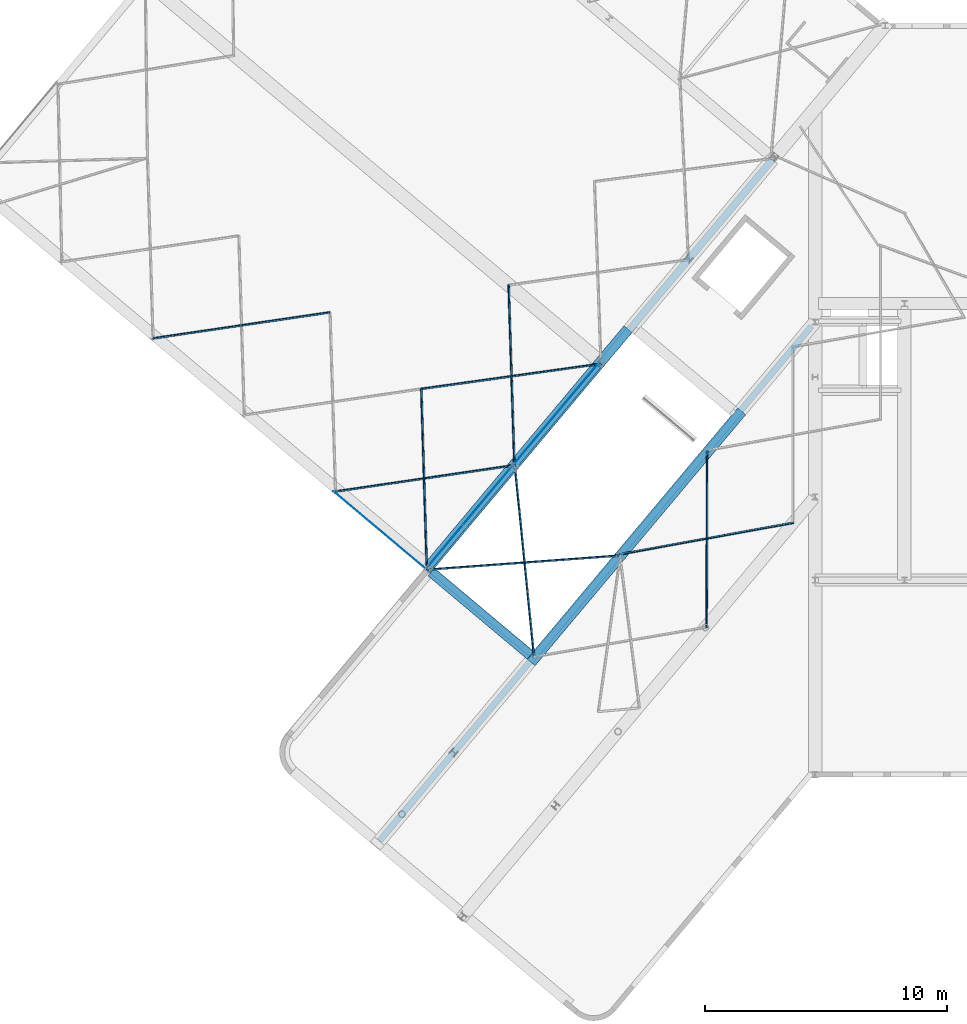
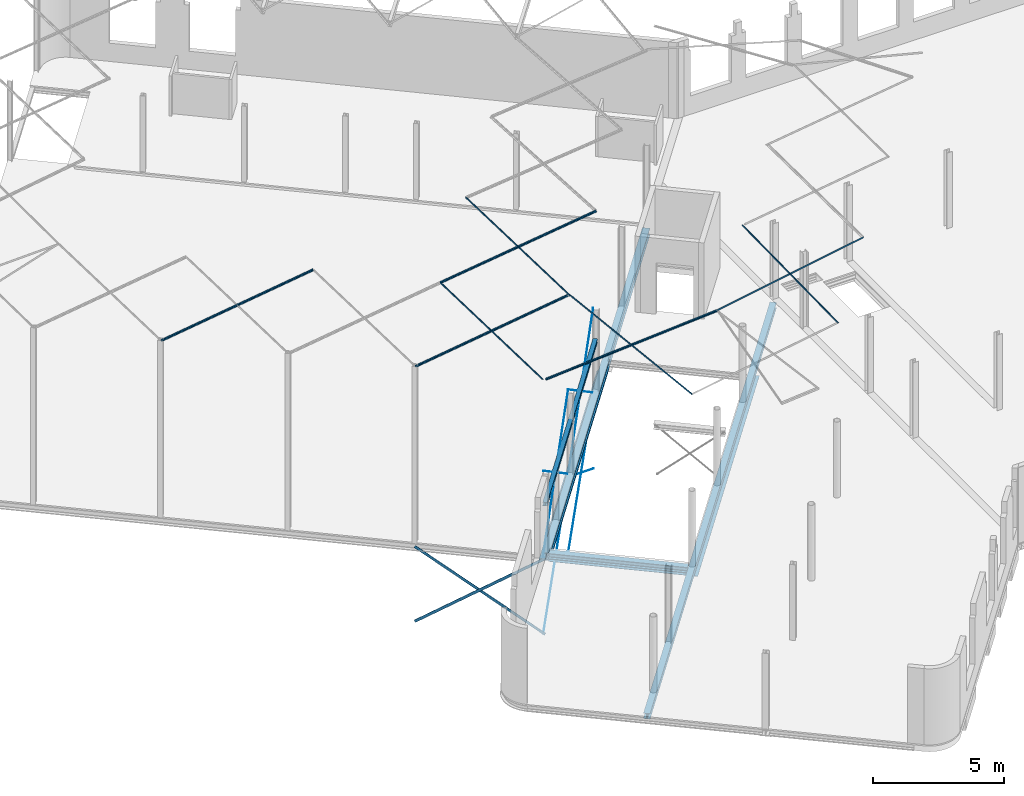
# One storey, part 13 of 25: 26 beams.
"""IFC2X3 building model written with IfcOpenShell, lengths in millimetres."""

from ifc_helpers import new_model, entity, si_unit, converted_unit, derived_unit, direction, frame, frame_2d, origin, origin_2d_with_axis, place, context, subcontext, project, spatial, polyline, circle_curve, parameter, trimmed, segment, composite_curve, rectangle, circle, i_section, outline, extrude, material, type_object, element, save


model = new_model("IFC2X3")

# Units and contexts
model_context = context("Model", 3, precision=0.01, world=origin(), true_north=direction((6.123031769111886e-17, 1.0)))
body_context = subcontext(model_context, "Body", "Model", "MODEL_VIEW")
ifc_project = project(units=[si_unit("LENGTHUNIT", "METRE", prefix="MILLI"), si_unit("AREAUNIT", "SQUARE_METRE"), si_unit("VOLUMEUNIT", "CUBIC_METRE"), derived_unit("MASSDENSITYUNIT", [(si_unit("MASSUNIT", "GRAM", prefix="KILO"), 1), (si_unit("LENGTHUNIT", "METRE"), -3)]), si_unit("MASSUNIT", "GRAM", prefix="KILO"), converted_unit("PLANEANGLEUNIT", "DEGREE", entity("IfcPlaneAngleMeasure", 0.017453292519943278), si_unit("PLANEANGLEUNIT", "RADIAN"), dimensions=[0, 0, 0, 0, 0, 0, 0])], contexts=[model_context])

# Site, building, storey
site_placement = place(None, origin())
site = spatial("IfcSite", under=ifc_project, at=site_placement, Name="Default", CompositionType="ELEMENT")
building_placement = place(site_placement, origin())
building = spatial("IfcBuilding", under=site, at=building_placement, Name="AT constructie", CompositionType="ELEMENT")
storey_placement = place(building_placement, frame((0.0, 0.0, 3864.0)))
storey = spatial("IfcBuildingStorey", under=building, at=storey_placement, Name="01 eerste verdieping", CompositionType="ELEMENT", Elevation=3864.0)

# Beams
ifc_material = material(Name="h2_staal_S355")
beam_type_1 = type_object("IfcBeamType", Name="balk HE_gen_HEB260", PredefinedType="NOTDEFINED")
beam_1_placement = place(storey_placement, frame((23031.961199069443, 8922.422091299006, 0.0), z_axis=(0.0, 0.0, 1.0), x_axis=(0.642787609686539, 0.7660444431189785, 0.0)))
element("IfcBeam", 1, at=beam_1_placement, inside=storey, type_object=beam_type_1, material=ifc_material, Name="NLRS_28_SF_LIB_balk HEB_gen_AT:balk HE_gen_HEB260", ObjectType="NLRS_28_SF_LIB_balk HEB_gen_AT:balk HE_gen_HEB260", context=body_context, shape_type="SweptSolid", body=[
    extrude(i_section(OverallWidth=260.00000000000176, OverallDepth=259.9999999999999, WebThickness=10.000000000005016, FlangeThickness=17.49999999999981, FilletRadius=24.000000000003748, at=frame_2d((2.7000623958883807e-13, -7.759126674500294e-12), x_axis=(0.0, 1.0))), frame((142.70000000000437, 0.0, -240.0), z_axis=(1.0, 0.0, 0.0), x_axis=(0.0, 0.0, -1.0)), (0.0, 0.0, 1.0), 27805.743873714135),
])
beam_2_placement = place(storey_placement, frame((25272.569397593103, 20226.942200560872, 0.0), z_axis=(0.0, 0.0, 1.0), x_axis=(0.7660444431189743, -0.6427876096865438, 0.0)))
element("IfcBeam", 2, at=beam_2_placement, inside=storey, type_object=beam_type_1, material=ifc_material, Name="NLRS_28_SF_LIB_balk HEB_gen_AT:balk HE_gen_HEB260", ObjectType="NLRS_28_SF_LIB_balk HEB_gen_AT:balk HE_gen_HEB260", context=body_context, shape_type="SweptSolid", body=[
    extrude(i_section(OverallWidth=259.99999999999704, OverallDepth=259.9999999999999, WebThickness=9.99999999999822, FlangeThickness=17.49999999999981, FilletRadius=24.000000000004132, at=frame_2d((2.7000623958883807e-13, -1.3926637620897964e-12), x_axis=(0.0, 1.0))), frame((0.0, 0.0, -240.0), z_axis=(1.0, 0.0, 0.0), x_axis=(0.0, 0.0, -1.0)), (0.0, 0.0, 1.0), 5399.999999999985),
])
beam_type_2 = type_object("IfcBeamType", Name="balk strip liggend_gen_420x15", PredefinedType="NOTDEFINED")
beam_3_placement = place(storey_placement, frame((25260.813696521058, 20158.481967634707, 0.0), z_axis=(0.0, 0.0, 1.0), x_axis=(0.7660444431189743, -0.6427876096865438, 0.0)))
element("IfcBeam", 3, at=beam_3_placement, inside=storey, type_object=beam_type_2, material=ifc_material, Name="NLRS_28_SF_LIB_balk strip_gen_AT:balk strip liggend_gen_420x15", ObjectType="NLRS_28_SF_LIB_balk strip_gen_AT:balk strip liggend_gen_420x15", context=body_context, shape_type="SweptSolid", body=[
    extrude(rectangle(XDim=14.999999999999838, YDim=420.00000000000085, at=origin_2d_with_axis()), frame((0.0, 0.0, -377.50000000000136), z_axis=(1.0, 0.0, 0.0), x_axis=(0.0, 0.0, -1.0)), (0.0, 0.0, 1.0), 5364.99999999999),
])
beam_type_3 = type_object("IfcBeamType", Name="balk HE_gen_HEB320", PredefinedType="NOTDEFINED")
beam_4_placement = place(storey_placement, frame((25247.520479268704, 20391.555540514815, 0.0), z_axis=(0.0, 0.0, 1.0), x_axis=(0.642787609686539, 0.7660444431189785, 0.0)))
element("IfcBeam", 4, at=beam_4_placement, inside=storey, type_object=beam_type_3, material=ifc_material, Name="NLRS_28_SF_LIB_balk HEB_gen_AT:balk HE_gen_HEB320", ObjectType="NLRS_28_SF_LIB_balk HEB_gen_AT:balk HE_gen_HEB320", context=body_context, shape_type="SweptSolid", body=[
    extrude(i_section(OverallWidth=300.0000000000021, OverallDepth=319.9999999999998, WebThickness=11.500000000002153, FlangeThickness=20.500000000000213, FilletRadius=26.999999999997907, at=frame_2d((-1.0942358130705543e-12, -3.069544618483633e-12), x_axis=(0.0, 1.0))), frame((6.096000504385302e-07, 0.0, -431.0), z_axis=(1.0, 0.0, 0.0), x_axis=(0.0, 0.0, -1.0)), (0.0, 0.0, 1.0), 21984.999999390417),
])
beam_type_4 = type_object("IfcBeamType", Name="balk strip liggend_gen_440x20", PredefinedType="NOTDEFINED")
beam_5_placement = place(storey_placement, frame((25201.55781268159, 20430.12279709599, 0.0), z_axis=(0.0, 0.0, 1.0), x_axis=(0.642787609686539, 0.7660444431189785, 0.0)))
element("IfcBeam", 5, at=beam_5_placement, inside=storey, type_object=beam_type_4, material=ifc_material, Name="NLRS_28_SF_LIB_balk strip_gen_AT:balk strip liggend_gen_440x20", ObjectType="NLRS_28_SF_LIB_balk strip_gen_AT:balk strip liggend_gen_440x20", context=body_context, shape_type="SweptSolid", body=[
    extrude(rectangle(XDim=19.999999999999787, YDim=439.99999999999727, at=frame_2d((0.0, -1.6768808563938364e-12), x_axis=(1.0, 0.0))), frame((0.0, 0.0, -601.0), z_axis=(1.0, 0.0, 0.0), x_axis=(0.0, 0.0, -1.0)), (0.0, 0.0, 1.0), 12765.000000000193),
])
beam_type_5 = type_object("IfcBeamType", Name="balk strip liggend_gen_440x15", PredefinedType="NOTDEFINED")
beam_6_placement = place(storey_placement, frame((29388.86562444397, 16420.49958667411, 0.0), z_axis=(0.0, 0.0, 1.0), x_axis=(0.642787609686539, 0.7660444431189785, 0.0)))
element("IfcBeam", 6, at=beam_6_placement, inside=storey, type_object=beam_type_5, material=ifc_material, Name="NLRS_28_SF_LIB_balk strip_gen_AT:balk strip liggend_gen_440x15", ObjectType="NLRS_28_SF_LIB_balk strip_gen_AT:balk strip liggend_gen_440x15", context=body_context, shape_type="SweptSolid", body=[
    extrude(rectangle(XDim=14.99999999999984, YDim=439.9999999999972, at=origin_2d_with_axis()), frame((0.0, 0.0, -377.5000000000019), z_axis=(1.0, 0.0, 0.0), x_axis=(0.0, 0.0, -1.0)), (0.0, 0.0, 1.0), 13565.000000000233),
])
beam_type_6 = type_object("IfcBeamType", Name="balk HE_gen_HEA180", PredefinedType="NOTDEFINED")
beam_7_placement = place(storey_placement, frame((25080.3957007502, 20192.383985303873, 2103.9668229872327), z_axis=(0.0, 0.0, 1.0), x_axis=(0.6427876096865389, 0.7660444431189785, 0.0)))
element("IfcBeam", 7, at=beam_7_placement, inside=storey, type_object=beam_type_6, material=ifc_material, Name="NLRS_28_SF_LIB_balk HEA_gen_AT:balk HE_gen_HEA180", ObjectType="NLRS_28_SF_LIB_balk HEA_gen_AT:balk HE_gen_HEA180", context=body_context, shape_type="SweptSolid", body=[
    extrude(i_section(OverallWidth=179.99999999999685, OverallDepth=171.0000000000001, WebThickness=5.9999999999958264, FlangeThickness=9.500000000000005, FilletRadius=15.000000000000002, at=frame_2d((1.0800249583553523e-12, 0.0), x_axis=(0.0, 1.0))), frame((0.0, 0.0, 85.50000000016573), z_axis=(1.0, 0.0, 0.0), x_axis=(0.0, 0.0, -1.0)), (0.0, 0.0, 1.0), 11069.035206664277),
])
beam_type_7 = type_object("IfcBeamType", Name="balk strip liggend_gen_120x10", PredefinedType="NOTDEFINED")
beam_8_placement = place(storey_placement, frame((21241.787390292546, 23481.892685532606, -430.99999998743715), z_axis=(0.4340114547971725, -0.36417885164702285, 0.8240193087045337), x_axis=(0.6312354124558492, -0.5296694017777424, -0.5665617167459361)))
element("IfcBeam", 8, at=beam_8_placement, inside=storey, type_object=beam_type_7, material=ifc_material, Name="NLRS_28_SF_LIB_balk strip_gen_AT:balk strip liggend_gen_120x10", ObjectType="NLRS_28_SF_LIB_balk strip_gen_AT:balk strip liggend_gen_120x10", context=body_context, shape_type="SweptSolid", body=[
    extrude(rectangle(XDim=119.99999999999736, YDim=10.000000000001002, at=frame_2d((2.1280754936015e-12, 1.6604495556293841e-12), x_axis=(1.0, 0.0))), frame((0.0, -5.0, 0.0), z_axis=(1.0, 0.0, 0.0), x_axis=(0.0, 0.0, -1.0)), (0.0, 0.0, 1.0), 6134.564987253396),
])
beam_9_placement = place(storey_placement, frame((25114.14205025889, 20232.60131856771, -375.7362524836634), z_axis=(-0.43927795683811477, 0.3685979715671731, 0.8192499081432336), x_axis=(-0.627581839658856, 0.5266036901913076, -0.5734366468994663)))
element("IfcBeam", 9, at=beam_9_placement, inside=storey, type_object=beam_type_7, material=ifc_material, Name="NLRS_28_SF_LIB_balk strip_gen_AT:balk strip liggend_gen_120x10", ObjectType="NLRS_28_SF_LIB_balk strip_gen_AT:balk strip liggend_gen_120x10", context=body_context, shape_type="SweptSolid", body=[
    extrude(rectangle(XDim=119.99999999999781, YDim=9.99999999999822, at=frame_2d((3.4567904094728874e-12, -2.7844393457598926e-12), x_axis=(1.0, 0.0))), frame((0.0, 5.0, 0.0), z_axis=(1.0, 0.0, 0.0), x_axis=(0.0, 0.0, -1.0)), (0.0, 0.0, 1.0), 6170.278384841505),
])
beam_type_8 = type_object("IfcBeamType", Name="staaf_gen_ø16", PredefinedType="NOTDEFINED")
beam_10_placement = place(storey_placement, frame((28689.757593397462, 24613.521913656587, -379.1250120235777), z_axis=(-0.3441246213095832, -0.4101117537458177, 0.8446221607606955), x_axis=(-0.5429126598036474, -0.6470181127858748, -0.5353628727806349)))
element("IfcBeam", 10, at=beam_10_placement, inside=storey, type_object=beam_type_8, material=ifc_material, Name="NLRS_28_SF_LIB_balk staaf_gen_AT:staaf_gen_ø16", ObjectType="NLRS_28_SF_LIB_balk staaf_gen_AT:staaf_gen_ø16", context=body_context, shape_type="SweptSolid", body=[
    extrude(circle(Radius=8.000000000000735, at=frame_2d((4.573067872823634e-13, 7.246405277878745e-26), x_axis=(1.0, 0.0))), frame((0.0, -8.0, 0.0), z_axis=(1.0, 0.0, 0.0), x_axis=(0.0, 0.0, -1.0)), (0.0, 0.0, 1.0), 6621.832148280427),
])
beam_11_placement = place(storey_placement, frame((25119.610376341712, 20358.786141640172, -432.70374667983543), z_axis=(0.34501999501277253, 0.41117881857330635, 0.8437376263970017), x_axis=(0.5423440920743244, 0.6463405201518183, -0.5367558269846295)))
element("IfcBeam", 11, at=beam_11_placement, inside=storey, type_object=beam_type_8, material=ifc_material, Name="NLRS_28_SF_LIB_balk staaf_gen_AT:staaf_gen_ø16", ObjectType="NLRS_28_SF_LIB_balk staaf_gen_AT:staaf_gen_ø16", context=body_context, shape_type="SweptSolid", body=[
    extrude(circle(Radius=8.000000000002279, at=origin_2d_with_axis()), frame((0.0, 8.0, 0.0), z_axis=(1.0, 0.0, 0.0), x_axis=(0.0, 0.0, -1.0)), (0.0, 0.0, 1.0), 6519.292961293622),
])
beam_12_placement = place(storey_placement, frame((32242.419979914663, 28847.42007606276, -430.06099987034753), z_axis=(-0.3391659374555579, -0.4042022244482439, 0.8494627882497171), x_axis=(-0.5460241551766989, -0.6507262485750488, -0.5276485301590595)))
element("IfcBeam", 12, at=beam_12_placement, inside=storey, type_object=beam_type_8, material=ifc_material, Name="NLRS_28_SF_LIB_balk staaf_gen_AT:staaf_gen_ø16", ObjectType="NLRS_28_SF_LIB_balk staaf_gen_AT:staaf_gen_ø16", context=body_context, shape_type="SweptSolid", body=[
    extrude(circle(Radius=8.00000000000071, at=frame_2d((4.599276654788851e-13, -1.7116664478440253e-25), x_axis=(1.0, 0.0))), frame((0.0, -8.0, 0.0), z_axis=(1.0, 0.0, 0.0), x_axis=(0.0, 0.0, -1.0)), (0.0, 0.0, 1.0), 6621.832148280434),
])
beam_13_placement = place(storey_placement, frame((28648.143534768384, 24563.92820978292, -441.5891021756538), z_axis=(0.33839442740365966, 0.4032827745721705, 0.8502071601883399), x_axis=(0.5465026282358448, 0.6512964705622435, -0.5264482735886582)))
element("IfcBeam", 13, at=beam_13_placement, inside=storey, type_object=beam_type_8, material=ifc_material, Name="NLRS_28_SF_LIB_balk staaf_gen_AT:staaf_gen_ø16", ObjectType="NLRS_28_SF_LIB_balk staaf_gen_AT:staaf_gen_ø16", context=body_context, shape_type="SweptSolid", body=[
    extrude(circle(Radius=7.999999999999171, at=frame_2d((2.386406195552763e-12, 3.3180973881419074e-12), x_axis=(1.0, 0.0))), frame((0.0, 8.0, 0.0), z_axis=(1.0, 0.0, 0.0), x_axis=(0.0, 0.0, -1.0)), (0.0, 0.0, 1.0), 6519.292961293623),
])
beam_14_placement = place(storey_placement, frame((28632.554788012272, 24554.684607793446, 3654.0), z_axis=(-0.37451475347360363, -0.4463293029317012, 0.8127292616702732), x_axis=(-0.5224122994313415, -0.6225867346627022, -0.582641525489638)))
element("IfcBeam", 14, at=beam_14_placement, inside=storey, type_object=beam_type_8, material=ifc_material, Name="NLRS_28_SF_LIB_balk staaf_gen_AT:staaf_gen_ø16", ObjectType="NLRS_28_SF_LIB_balk staaf_gen_AT:staaf_gen_ø16", context=body_context, shape_type="SweptSolid", body=[
    extrude(circle(Radius=8.000000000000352, at=frame_2d((8.800778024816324e-13, -2.7500874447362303e-25), x_axis=(1.0, 0.0))), frame((0.0, -8.0, 0.0), z_axis=(1.0, 0.0, 0.0), x_axis=(0.0, 0.0, -1.0)), (0.0, 0.0, 1.0), 6838.942375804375),
])
beam_15_placement = place(storey_placement, frame((25105.033139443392, 20341.413667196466, 3641.8953382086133), z_axis=(0.37414129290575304, 0.4458842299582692, 0.8131454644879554), x_axis=(0.5226798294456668, 0.622905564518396, -0.5820605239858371)))
element("IfcBeam", 15, at=beam_15_placement, inside=storey, type_object=beam_type_8, material=ifc_material, Name="NLRS_28_SF_LIB_balk staaf_gen_AT:staaf_gen_ø16", ObjectType="NLRS_28_SF_LIB_balk staaf_gen_AT:staaf_gen_ø16", context=body_context, shape_type="SweptSolid", body=[
    extrude(circle(Radius=8.000000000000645, at=frame_2d((-1.9313335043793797e-12, 2.7842142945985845e-12), x_axis=(1.0, 0.0))), frame((0.0, 8.0, 0.0), z_axis=(1.0, 0.0, 0.0), x_axis=(0.0, 0.0, -1.0)), (0.0, 0.0, 1.0), 6829.257866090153),
])
beam_16_placement = place(storey_placement, frame((32164.672703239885, 28764.098822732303, 3654.0), z_axis=(-0.37451475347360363, -0.4463293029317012, 0.8127292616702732), x_axis=(-0.5224122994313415, -0.6225867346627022, -0.582641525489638)))
element("IfcBeam", 16, at=beam_16_placement, inside=storey, type_object=beam_type_8, material=ifc_material, Name="NLRS_28_SF_LIB_balk staaf_gen_AT:staaf_gen_ø16", ObjectType="NLRS_28_SF_LIB_balk staaf_gen_AT:staaf_gen_ø16", context=body_context, shape_type="SweptSolid", body=[
    extrude(circle(Radius=8.000000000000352, at=frame_2d((8.800778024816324e-13, -2.7500874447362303e-25), x_axis=(1.0, 0.0))), frame((0.0, -8.0, 0.0), z_axis=(1.0, 0.0, 0.0), x_axis=(0.0, 0.0, -1.0)), (0.0, 0.0, 1.0), 6838.942375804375),
])
beam_17_placement = place(storey_placement, frame((28637.151054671, 24550.827882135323, 3641.8953382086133), z_axis=(0.37414129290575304, 0.4458842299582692, 0.8131454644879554), x_axis=(0.5226798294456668, 0.622905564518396, -0.5820605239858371)))
element("IfcBeam", 17, at=beam_17_placement, inside=storey, type_object=beam_type_8, material=ifc_material, Name="NLRS_28_SF_LIB_balk staaf_gen_AT:staaf_gen_ø16", ObjectType="NLRS_28_SF_LIB_balk staaf_gen_AT:staaf_gen_ø16", context=body_context, shape_type="SweptSolid", body=[
    extrude(circle(Radius=8.000000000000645, at=frame_2d((-1.9313335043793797e-12, 2.7842142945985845e-12), x_axis=(1.0, 0.0))), frame((0.0, 8.0, 0.0), z_axis=(1.0, 0.0, 0.0), x_axis=(0.0, 0.0, -1.0)), (0.0, 0.0, 1.0), 6829.257866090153),
])
beam_type_9 = type_object("IfcBeamType", Name="balk_gen_L70x70x7", PredefinedType="NOTDEFINED")
beam_18_placement = place(storey_placement, frame((13715.892025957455, 29852.316780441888, 8000.519610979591), z_axis=(-0.011831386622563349, -0.0017413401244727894, 0.9999284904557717), x_axis=(0.989271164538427, 0.14560064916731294, 0.011958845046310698)))
element("IfcBeam", 18, at=beam_18_placement, inside=storey, type_object=beam_type_9, material=ifc_material, Name="NLRS_28_SF_LIB_balk hoeklijn_gen_AT:balk_gen_L70x70x7", ObjectType="NLRS_28_SF_LIB_balk hoeklijn_gen_AT:balk_gen_L70x70x7", context=body_context, shape_type="SweptSolid", body=[
    extrude(outline(composite_curve([segment(polyline([(-26.444444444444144, -26.44444444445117), (43.55555555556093, -26.44444444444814)]), True, "CONTINUOUS"), segment(polyline([(43.55555555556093, -26.44444444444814), (43.55555555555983, -23.944444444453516)]), True, "CONTINUOUS"), segment(trimmed(circle_curve(frame_2d((39.055555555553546, -23.94444444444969), x_axis=(1.0, 0.0)), 4.500000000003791), [parameter(0.0)], [parameter(89.99999999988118)], True, "PARAMETER"), True, "CONTINUOUS"), segment(polyline([(39.055555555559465, -19.444444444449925), (-10.444444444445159, -19.44444444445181)]), True, "CONTINUOUS"), segment(trimmed(circle_curve(frame_2d((-10.444444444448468, -10.444444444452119), x_axis=(0.0, -1.0)), 8.999999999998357), [parameter(269.99999999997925)], [parameter(0.0)], True, "PARAMETER"), False, "CONTINUOUS"), segment(polyline([(-19.4444444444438, -10.444444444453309), (-19.44444444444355, 39.05555555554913)]), True, "CONTINUOUS"), segment(trimmed(circle_curve(frame_2d((-23.94444444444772, 39.055555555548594), x_axis=(1.0, 0.0)), 4.500000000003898), [parameter(0.0)], [parameter(89.99999999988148)], True, "PARAMETER"), True, "CONTINUOUS"), segment(polyline([(-23.94444444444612, 43.55555555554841), (-26.444444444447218, 43.55555555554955)]), True, "CONTINUOUS"), segment(polyline([(-26.444444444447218, 43.55555555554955), (-26.444444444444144, -26.44444444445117)]), True, "CONTINUOUS")], self_intersect=False)), frame((0.0, -18.767930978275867, -63.7586059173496), z_axis=(1.0, 0.0, 0.0), x_axis=(0.0, -0.010627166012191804, 0.9999435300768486)), (0.0, 0.0, 1.0), 7422.067704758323),
])
beam_19_placement = place(storey_placement, frame((25045.689339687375, 20345.48803317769, 8000.519610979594), z_axis=(0.0003661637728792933, -0.01192893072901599, 0.9999287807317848), x_axis=(-0.030678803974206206, 0.999458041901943, 0.011934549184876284)))
element("IfcBeam", 19, at=beam_19_placement, inside=storey, type_object=beam_type_9, material=ifc_material, Name="NLRS_28_SF_LIB_balk hoeklijn_gen_AT:balk_gen_L70x70x7", ObjectType="NLRS_28_SF_LIB_balk hoeklijn_gen_AT:balk_gen_L70x70x7", context=body_context, shape_type="SweptSolid", body=[
    extrude(outline(composite_curve([segment(polyline([(-26.444444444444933, -26.444444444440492), (43.55555555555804, -26.44444444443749)]), True, "CONTINUOUS"), segment(polyline([(43.55555555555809, -26.44444444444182), (43.55555555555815, -23.94444444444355)]), True, "CONTINUOUS"), segment(trimmed(circle_curve(frame_2d((39.0555555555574, -23.944444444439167), x_axis=(1.0, 0.0)), 4.4999999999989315), [parameter(0.0)], [parameter(89.99999999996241)], True, "PARAMETER"), True, "CONTINUOUS"), segment(polyline([(39.055555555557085, -19.444444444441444), (-10.444444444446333, -19.444444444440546)]), True, "CONTINUOUS"), segment(trimmed(circle_curve(frame_2d((-10.444444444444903, -10.444444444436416), x_axis=(0.0, -1.0)), 9.000000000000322), [parameter(270.00000000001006)], [parameter(0.0)], True, "PARAMETER"), False, "CONTINUOUS"), segment(polyline([(-19.444444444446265, -10.44444444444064), (-19.4444444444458, 39.055555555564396)]), True, "CONTINUOUS"), segment(trimmed(circle_curve(frame_2d((-23.9444444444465, 39.05555555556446), x_axis=(1.0, 0.0)), 4.500000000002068), [parameter(0.0)], [parameter(89.99999999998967)], True, "PARAMETER"), True, "CONTINUOUS"), segment(polyline([(-23.944444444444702, 43.55555555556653), (-26.444444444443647, 43.555555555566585)]), True, "CONTINUOUS"), segment(polyline([(-26.444444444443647, 43.555555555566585), (-26.44444444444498, -26.44444444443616)]), True, "CONTINUOUS")], self_intersect=False)), frame((0.0, -20.12048990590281, -63.344778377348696), z_axis=(1.0, 0.0, 0.0), x_axis=(0.0, 0.010654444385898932, 0.9999432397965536)), (0.0, 0.0, 1.0), 7403.062975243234),
])
beam_20_placement = place(storey_placement, frame((21269.090235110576, 23514.43094893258, 8000.519610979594), z_axis=(-0.011831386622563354, -0.0017413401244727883, 0.9999284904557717), x_axis=(0.989271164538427, 0.14560064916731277, 0.011958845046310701)))
element("IfcBeam", 20, at=beam_20_placement, inside=storey, type_object=beam_type_9, material=ifc_material, Name="NLRS_28_SF_LIB_balk hoeklijn_gen_AT:balk_gen_L70x70x7", ObjectType="NLRS_28_SF_LIB_balk hoeklijn_gen_AT:balk_gen_L70x70x7", context=body_context, shape_type="SweptSolid", body=[
    extrude(outline(composite_curve([segment(polyline([(-26.444444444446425, -26.44444444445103), (43.555555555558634, -26.444444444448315)]), True, "CONTINUOUS"), segment(polyline([(43.555555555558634, -26.444444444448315), (43.555555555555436, -23.94444444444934)]), True, "CONTINUOUS"), segment(trimmed(circle_curve(frame_2d((39.055555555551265, -23.944444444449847), x_axis=(1.0, 0.0)), 4.500000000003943), [parameter(0.0)], [parameter(89.99999999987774)], True, "PARAMETER"), True, "CONTINUOUS"), segment(polyline([(39.055555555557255, -19.444444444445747), (-10.444444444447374, -19.444444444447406)]), True, "CONTINUOUS"), segment(trimmed(circle_curve(frame_2d((-10.444444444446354, -10.444444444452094), x_axis=(0.0, -1.0)), 8.9999999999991), [parameter(269.9999999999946)], [parameter(0.0)], True, "PARAMETER"), False, "CONTINUOUS"), segment(polyline([(-19.444444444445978, -10.444444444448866), (-19.44444444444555, 39.05555555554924)]), True, "CONTINUOUS"), segment(trimmed(circle_curve(frame_2d((-23.944444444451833, 39.055555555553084), x_axis=(1.0, 0.0)), 4.500000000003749), [parameter(0.0)], [parameter(89.99999999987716)], True, "PARAMETER"), True, "CONTINUOUS"), segment(polyline([(-23.944444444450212, 43.5555555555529), (-26.44444444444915, 43.55555555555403)]), True, "CONTINUOUS"), segment(polyline([(-26.44444444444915, 43.55555555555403), (-26.444444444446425, -26.44444444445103)]), True, "CONTINUOUS")], self_intersect=False)), frame((0.0, -18.767930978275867, -63.758605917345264), z_axis=(1.0, 0.0, 0.0), x_axis=(0.0, -0.010627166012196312, 0.9999435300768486)), (0.0, 0.0, 1.0), 7422.067704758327),
])
beam_21_placement = place(storey_placement, frame((29488.74710977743, 16617.319896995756, 8000.519610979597), z_axis=(0.0011178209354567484, -0.011108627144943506, 0.9999376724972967), x_axis=(-0.10011452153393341, 0.9949132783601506, 0.011164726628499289)))
element("IfcBeam", 21, at=beam_21_placement, inside=storey, type_object=beam_type_9, material=ifc_material, Name="NLRS_28_SF_LIB_balk hoeklijn_gen_AT:balk_gen_L70x70x7", ObjectType="NLRS_28_SF_LIB_balk hoeklijn_gen_AT:balk_gen_L70x70x7", context=body_context, shape_type="SweptSolid", body=[
    extrude(outline(composite_curve([segment(polyline([(-26.444444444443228, -26.4444444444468), (43.55555555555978, -26.444444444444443)]), True, "CONTINUOUS"), segment(polyline([(43.55555555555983, -26.444444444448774), (43.55555555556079, -23.944444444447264)]), True, "CONTINUOUS"), segment(trimmed(circle_curve(frame_2d((39.05555555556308, -23.944444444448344), x_axis=(1.0, 0.0)), 4.50000000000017), [parameter(0.0)], [parameter(89.99999999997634)], True, "PARAMETER"), True, "CONTINUOUS"), segment(polyline([(39.05555555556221, -19.444444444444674), (-10.444444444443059, -19.44444444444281)]), True, "CONTINUOUS"), segment(trimmed(circle_curve(frame_2d((-10.444444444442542, -10.444444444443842), x_axis=(0.0, -1.0)), 8.99999999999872), [parameter(270.00000000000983)], [parameter(0.0)], True, "PARAMETER"), False, "CONTINUOUS"), segment(polyline([(-19.444444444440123, -10.444444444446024), (-19.444444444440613, 39.055555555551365)]), True, "CONTINUOUS"), segment(trimmed(circle_curve(frame_2d((-23.944444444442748, 39.05555555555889), x_axis=(1.0, 0.0)), 4.499999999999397), [parameter(0.0)], [parameter(90.00000000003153)], True, "PARAMETER"), True, "CONTINUOUS"), segment(polyline([(-23.944444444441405, 43.55555555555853), (-26.444444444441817, 43.55555555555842)]), True, "CONTINUOUS"), segment(polyline([(-26.444444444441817, 43.55555555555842), (-26.444444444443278, -26.444444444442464)]), True, "CONTINUOUS")], self_intersect=False)), frame((0.0, -20.17142615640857, -63.328576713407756), z_axis=(1.0, 0.0, 0.0), x_axis=(0.0, 0.011458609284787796, 0.9999343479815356)), (0.0, 0.0, 1.0), 7923.652560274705),
])
beam_22_placement = place(storey_placement, frame((25159.380033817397, 20286.51384799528, 8000.966044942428), z_axis=(-0.011124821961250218, -0.0008178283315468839, 0.9999377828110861), x_axis=(0.9972467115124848, 0.07331143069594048, 0.011154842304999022)))
element("IfcBeam", 22, at=beam_22_placement, inside=storey, type_object=beam_type_9, material=ifc_material, Name="NLRS_28_SF_LIB_balk hoeklijn_gen_AT:balk_gen_L70x70x7", ObjectType="NLRS_28_SF_LIB_balk hoeklijn_gen_AT:balk_gen_L70x70x7", context=body_context, shape_type="SweptSolid", body=[
    extrude(outline(composite_curve([segment(polyline([(-26.444444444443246, -26.444444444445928), (43.55555555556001, -26.444444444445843)]), True, "CONTINUOUS"), segment(polyline([(43.55555555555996, -26.444444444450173), (43.55555555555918, -23.944444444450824)]), True, "CONTINUOUS"), segment(trimmed(circle_curve(frame_2d((39.05555555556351, -23.944444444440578), x_axis=(1.0, 0.0)), 4.49999999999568), [parameter(0.0)], [parameter(90.00000000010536)], True, "PARAMETER"), True, "CONTINUOUS"), segment(polyline([(39.05555555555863, -19.444444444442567), (-10.444444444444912, -19.444444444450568)]), True, "CONTINUOUS"), segment(trimmed(circle_curve(frame_2d((-10.444444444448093, -10.444444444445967), x_axis=(0.0, -1.0)), 8.999999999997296), [parameter(269.9999999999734)], [parameter(0.0)], True, "PARAMETER"), False, "CONTINUOUS"), segment(polyline([(-19.444444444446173, -10.444444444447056), (-19.444444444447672, 39.05555555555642)]), True, "CONTINUOUS"), segment(trimmed(circle_curve(frame_2d((-23.94444444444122, 39.05555555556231), x_axis=(1.0, 0.0)), 4.49999999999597), [parameter(0.0)], [parameter(90.0000000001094)], True, "PARAMETER"), True, "CONTINUOUS"), segment(polyline([(-23.944444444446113, 43.555555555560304), (-26.444444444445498, 43.55555555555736)]), True, "CONTINUOUS"), segment(polyline([(-26.44444444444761, 43.55555555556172), (-26.444444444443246, -26.444444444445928)]), True, "CONTINUOUS")], self_intersect=False)), frame((0.0, -18.714295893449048, -63.77436938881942), z_axis=(1.0, 0.0, 0.0), x_axis=(0.0, -0.011468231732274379, 0.9999342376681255)), (0.0, 0.0, 1.0), 7911.785575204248),
])
beam_23_placement = place(storey_placement, frame((36627.521557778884, 17844.192482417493, 8088.976486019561), z_axis=(-3.9711631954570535e-05, -0.012288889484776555, 0.9999244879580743), x_axis=(0.0032312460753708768, 0.9999192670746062, 0.01228895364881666)))
element("IfcBeam", 23, at=beam_23_placement, inside=storey, type_object=beam_type_9, material=ifc_material, Name="NLRS_28_SF_LIB_balk hoeklijn_gen_AT:balk_gen_L70x70x7", ObjectType="NLRS_28_SF_LIB_balk hoeklijn_gen_AT:balk_gen_L70x70x7", context=body_context, shape_type="SweptSolid", body=[
    extrude(outline(composite_curve([segment(polyline([(-26.444444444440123, -26.444444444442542), (43.555555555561, -26.44444444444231)]), True, "CONTINUOUS"), segment(polyline([(43.55555555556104, -26.444444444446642), (43.5555555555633, -23.944444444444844)]), True, "CONTINUOUS"), segment(trimmed(circle_curve(frame_2d((39.05555555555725, -23.944444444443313), x_axis=(1.0, 0.0)), 4.500000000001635), [parameter(0.0)], [parameter(89.99999999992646)], True, "PARAMETER"), True, "CONTINUOUS"), segment(polyline([(39.05555555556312, -19.444444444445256), (-10.444444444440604, -19.444444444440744)]), True, "CONTINUOUS"), segment(trimmed(circle_curve(frame_2d((-10.44444444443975, -10.444444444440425), x_axis=(0.0, -1.0)), 9.000000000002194), [parameter(270.00000000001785)], [parameter(0.0)], True, "PARAMETER"), False, "CONTINUOUS"), segment(polyline([(-19.444444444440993, -10.444444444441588), (-19.44444444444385, 39.055555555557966)]), True, "CONTINUOUS"), segment(trimmed(circle_curve(frame_2d((-23.944444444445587, 39.055555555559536), x_axis=(1.0, 0.0)), 4.500000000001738), [parameter(0.0)], [parameter(89.9999999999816)], True, "PARAMETER"), True, "CONTINUOUS"), segment(polyline([(-23.944444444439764, 43.55555555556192), (-26.444444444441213, 43.55555555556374)]), True, "CONTINUOUS"), segment(polyline([(-26.444444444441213, 43.55555555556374), (-26.444444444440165, -26.44444444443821)]), True, "CONTINUOUS")], self_intersect=False)), frame((0.0, -20.094463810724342, -63.35303927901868), z_axis=(1.0, 0.0, 0.0), x_axis=(0.0, 0.01024362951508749, 0.9999475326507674)), (0.0, 0.0, 1.0), 7320.0943347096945),
])
beam_24_placement = place(storey_placement, frame((40254.428487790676, 22166.57184626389, 8179.255934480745), z_axis=(-0.012111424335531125, -0.0022015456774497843, 0.9999242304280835), x_axis=(-0.9838029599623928, -0.17883009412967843, -0.012309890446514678)))
element("IfcBeam", 24, at=beam_24_placement, inside=storey, type_object=beam_type_9, material=ifc_material, Name="NLRS_28_SF_LIB_balk hoeklijn_gen_AT:balk_gen_L70x70x7", ObjectType="NLRS_28_SF_LIB_balk hoeklijn_gen_AT:balk_gen_L70x70x7", context=body_context, shape_type="SweptSolid", body=[
    extrude(outline(composite_curve([segment(polyline([(-26.44444444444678, -26.444444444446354), (43.55555555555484, -26.444444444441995)]), True, "CONTINUOUS"), segment(polyline([(43.55555555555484, -26.444444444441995), (43.55555555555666, -23.944444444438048)]), True, "CONTINUOUS"), segment(trimmed(circle_curve(frame_2d((39.05555555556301, -23.94444444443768), x_axis=(1.0, 0.0)), 4.499999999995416), [parameter(0.0)], [parameter(90.00000000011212)], True, "PARAMETER"), True, "CONTINUOUS"), segment(polyline([(39.055555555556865, -19.44444444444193), (-10.44444444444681, -19.444444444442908)]), True, "CONTINUOUS"), segment(trimmed(circle_curve(frame_2d((-10.444444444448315, -10.444444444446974), x_axis=(0.0, -1.0)), 9.000000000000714), [parameter(270.0000000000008)], [parameter(0.0)], True, "PARAMETER"), False, "CONTINUOUS"), segment(polyline([(-19.44444444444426, -10.444444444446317), (-19.444444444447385, 39.05555555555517)]), True, "CONTINUOUS"), segment(trimmed(circle_curve(frame_2d((-23.944444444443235, 39.05555555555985), x_axis=(1.0, 0.0)), 4.499999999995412), [parameter(0.0)], [parameter(90.00000000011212)], True, "PARAMETER"), True, "CONTINUOUS"), segment(polyline([(-23.944444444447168, 43.555555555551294), (-26.444444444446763, 43.55555555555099)]), True, "CONTINUOUS"), segment(polyline([(-26.444444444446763, 43.55555555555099), (-26.44444444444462, -26.444444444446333)]), True, "CONTINUOUS")], self_intersect=False)), frame((0.0, -20.09286908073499, -63.3535450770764), z_axis=(1.0, 0.0, 0.0), x_axis=(0.0, 0.010218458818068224, 0.9999477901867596)), (0.0, 0.0, 1.0), 7317.707168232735),
])
beam_25_placement = place(storey_placement, frame((28673.689988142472, 24511.20972891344, 8088.89020012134), z_axis=(0.00037979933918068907, -0.011915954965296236, 0.9999289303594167), x_axis=(-0.031854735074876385, 0.9994214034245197, 0.01192200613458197)))
element("IfcBeam", 25, at=beam_25_placement, inside=storey, type_object=beam_type_9, material=ifc_material, Name="NLRS_28_SF_LIB_balk hoeklijn_gen_AT:balk_gen_L70x70x7", ObjectType="NLRS_28_SF_LIB_balk hoeklijn_gen_AT:balk_gen_L70x70x7", context=body_context, shape_type="SweptSolid", body=[
    extrude(outline(composite_curve([segment(polyline([(-26.444444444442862, -26.44444444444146), (43.55555555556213, -26.44444444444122)]), True, "CONTINUOUS"), segment(polyline([(43.55555555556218, -26.44444444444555), (43.5555555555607, -23.944444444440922)]), True, "CONTINUOUS"), segment(trimmed(circle_curve(frame_2d((39.05555555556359, -23.944444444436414), x_axis=(1.0, 0.0)), 4.499999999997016), [parameter(0.0)], [parameter(90.00000000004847)], True, "PARAMETER"), True, "CONTINUOUS"), segment(polyline([(39.05555555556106, -19.444444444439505), (-10.444444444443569, -19.44444444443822)]), True, "CONTINUOUS"), segment(trimmed(circle_curve(frame_2d((-10.444444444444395, -10.444444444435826), x_axis=(0.0, -1.0)), 8.999999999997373), [parameter(269.999999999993)], [parameter(0.0)], True, "PARAMETER"), False, "CONTINUOUS"), segment(polyline([(-19.44444444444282, -10.444444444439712), (-19.444444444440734, 39.05555555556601)]), True, "CONTINUOUS"), segment(trimmed(circle_curve(frame_2d((-23.944444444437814, 39.05555555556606), x_axis=(1.0, 0.0)), 4.499999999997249), [parameter(0.0)], [parameter(90.00000000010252)], True, "PARAMETER"), True, "CONTINUOUS"), segment(polyline([(-23.944444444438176, 43.555555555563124), (-26.44444444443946, 43.55555555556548)]), True, "CONTINUOUS"), segment(polyline([(-26.44444444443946, 43.55555555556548), (-26.444444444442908, -26.444444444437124)]), True, "CONTINUOUS")], self_intersect=False)), frame((0.0, -20.121378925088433, -63.34449598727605), z_axis=(1.0, 0.0, 0.0), x_axis=(0.0, 0.010668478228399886, 0.9999430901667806)), (0.0, 0.0, 1.0), 7545.592154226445),
])
beam_26_placement = place(storey_placement, frame((24834.928692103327, 27764.031740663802, 8089.278968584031), z_axis=(-0.011768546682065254, -0.0016469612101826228, 0.9999293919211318), x_axis=(0.9902791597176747, 0.13858562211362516, 0.01188323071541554)))
element("IfcBeam", 26, at=beam_26_placement, inside=storey, type_object=beam_type_9, material=ifc_material, Name="NLRS_28_SF_LIB_balk hoeklijn_gen_AT:balk_gen_L70x70x7", ObjectType="NLRS_28_SF_LIB_balk hoeklijn_gen_AT:balk_gen_L70x70x7", context=body_context, shape_type="SweptSolid", body=[
    extrude(outline(composite_curve([segment(polyline([(-26.444444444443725, -26.444444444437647), (43.555555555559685, -26.444444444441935)]), True, "CONTINUOUS"), segment(polyline([(43.555555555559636, -26.444444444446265), (43.555555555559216, -23.94444444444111)]), True, "CONTINUOUS"), segment(trimmed(circle_curve(frame_2d((39.055555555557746, -23.944444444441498), x_axis=(1.0, 0.0)), 4.500000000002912), [parameter(0.0)], [parameter(89.99999999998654)], True, "PARAMETER"), True, "CONTINUOUS"), segment(polyline([(39.05555555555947, -19.44444444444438), (-10.444444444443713, -19.444444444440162)]), True, "CONTINUOUS"), segment(trimmed(circle_curve(frame_2d((-10.444444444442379, -10.444444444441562), x_axis=(0.0, -1.0)), 9.000000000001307), [parameter(270.0000000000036)], [parameter(0.0)], True, "PARAMETER"), False, "CONTINUOUS"), segment(polyline([(-19.44444444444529, -10.444444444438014), (-19.44444444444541, 39.055555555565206)]), True, "CONTINUOUS"), segment(trimmed(circle_curve(frame_2d((-23.944444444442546, 39.05555555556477), x_axis=(1.0, 0.0)), 4.500000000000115), [parameter(0.0)], [parameter(90.00000000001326)], True, "PARAMETER"), True, "CONTINUOUS"), segment(polyline([(-23.94444444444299, 43.555555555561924), (-26.444444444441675, 43.55555555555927)]), True, "CONTINUOUS"), segment(polyline([(-26.444444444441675, 43.55555555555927), (-26.44444444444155, -26.44444444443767)]), True, "CONTINUOUS")], self_intersect=False)), frame((0.0, -18.762543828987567, -63.760191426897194), z_axis=(1.0, 0.0, 0.0), x_axis=(0.0, -0.010711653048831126, 0.9999426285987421)), (0.0, 0.0, 1.0), 7550.22212095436),
])

save(model, "model.ifc")
